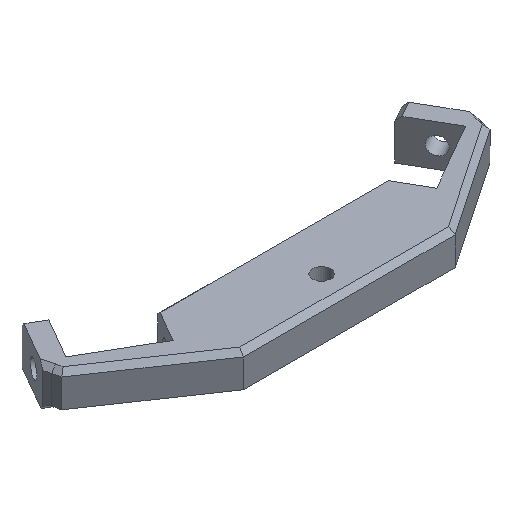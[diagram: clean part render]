
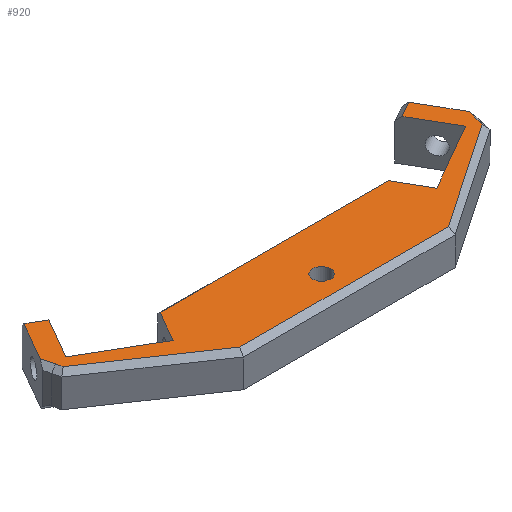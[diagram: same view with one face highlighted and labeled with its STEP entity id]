
A CAD part, isometric view. The second image highlights one B-rep face of the part: STEP entity #920.
In plain terms, the highlighted planar face has unit normal (0, 0, 1).
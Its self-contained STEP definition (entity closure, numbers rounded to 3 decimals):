
#56=LINE('',#1345,#170);
#61=LINE('',#1356,#175);
#64=LINE('',#1362,#178);
#67=LINE('',#1368,#181);
#71=LINE('',#1374,#185);
#73=LINE('',#1379,#187);
#77=LINE('',#1386,#191);
#81=LINE('',#1393,#195);
#89=LINE('',#1412,#203);
#92=LINE('',#1420,#206);
#93=LINE('',#1422,#207);
#94=LINE('',#1424,#208);
#95=LINE('',#1426,#209);
#96=LINE('',#1428,#210);
#97=LINE('',#1430,#211);
#98=LINE('',#1432,#212);
#99=LINE('',#1434,#213);
#100=LINE('',#1435,#214);
#170=VECTOR('',#1079,10.);
#175=VECTOR('',#1086,10.);
#178=VECTOR('',#1091,10.);
#181=VECTOR('',#1096,10.);
#185=VECTOR('',#1102,10.);
#187=VECTOR('',#1106,10.);
#191=VECTOR('',#1112,10.);
#195=VECTOR('',#1118,10.);
#203=VECTOR('',#1144,10.);
#206=VECTOR('',#1151,10.);
#207=VECTOR('',#1152,10.);
#208=VECTOR('',#1153,10.);
#209=VECTOR('',#1154,10.);
#210=VECTOR('',#1155,10.);
#211=VECTOR('',#1156,10.);
#212=VECTOR('',#1157,10.);
#213=VECTOR('',#1158,10.);
#214=VECTOR('',#1159,10.);
#268=PLANE('',#980);
#299=FACE_BOUND('',#390,.T.);
#331=FACE_OUTER_BOUND('',#389,.T.);
#389=EDGE_LOOP('',(#765,#766,#767,#768,#769,#770,#771,#772,#773,#774,#775,
#776,#777,#778,#779,#780,#781,#782));
#390=EDGE_LOOP('',(#783));
#431=CIRCLE('',#981,1.75);
#474=VERTEX_POINT('',#1343);
#475=VERTEX_POINT('',#1344);
#479=VERTEX_POINT('',#1353);
#480=VERTEX_POINT('',#1355);
#482=VERTEX_POINT('',#1361);
#484=VERTEX_POINT('',#1367);
#487=VERTEX_POINT('',#1377);
#489=VERTEX_POINT('',#1384);
#491=VERTEX_POINT('',#1391);
#493=VERTEX_POINT('',#1411);
#496=VERTEX_POINT('',#1419);
#497=VERTEX_POINT('',#1421);
#498=VERTEX_POINT('',#1423);
#499=VERTEX_POINT('',#1425);
#500=VERTEX_POINT('',#1427);
#501=VERTEX_POINT('',#1429);
#502=VERTEX_POINT('',#1431);
#503=VERTEX_POINT('',#1433);
#504=VERTEX_POINT('',#1436);
#562=EDGE_CURVE('',#474,#475,#56,.T.);
#567=EDGE_CURVE('',#479,#480,#61,.T.);
#570=EDGE_CURVE('',#475,#482,#64,.T.);
#573=EDGE_CURVE('',#482,#484,#67,.T.);
#577=EDGE_CURVE('',#484,#479,#71,.T.);
#579=EDGE_CURVE('',#487,#474,#73,.T.);
#583=EDGE_CURVE('',#489,#487,#77,.T.);
#587=EDGE_CURVE('',#491,#489,#81,.T.);
#596=EDGE_CURVE('',#480,#493,#89,.T.);
#600=EDGE_CURVE('',#496,#491,#92,.T.);
#601=EDGE_CURVE('',#497,#496,#93,.T.);
#602=EDGE_CURVE('',#498,#497,#94,.T.);
#603=EDGE_CURVE('',#499,#498,#95,.T.);
#604=EDGE_CURVE('',#500,#499,#96,.T.);
#605=EDGE_CURVE('',#500,#501,#97,.T.);
#606=EDGE_CURVE('',#501,#502,#98,.T.);
#607=EDGE_CURVE('',#502,#503,#99,.T.);
#608=EDGE_CURVE('',#493,#503,#100,.T.);
#609=EDGE_CURVE('',#504,#504,#431,.T.);
#765=ORIENTED_EDGE('',*,*,#583,.F.);
#766=ORIENTED_EDGE('',*,*,#587,.F.);
#767=ORIENTED_EDGE('',*,*,#600,.F.);
#768=ORIENTED_EDGE('',*,*,#601,.F.);
#769=ORIENTED_EDGE('',*,*,#602,.F.);
#770=ORIENTED_EDGE('',*,*,#603,.F.);
#771=ORIENTED_EDGE('',*,*,#604,.F.);
#772=ORIENTED_EDGE('',*,*,#605,.T.);
#773=ORIENTED_EDGE('',*,*,#606,.T.);
#774=ORIENTED_EDGE('',*,*,#607,.T.);
#775=ORIENTED_EDGE('',*,*,#608,.F.);
#776=ORIENTED_EDGE('',*,*,#596,.F.);
#777=ORIENTED_EDGE('',*,*,#567,.F.);
#778=ORIENTED_EDGE('',*,*,#577,.F.);
#779=ORIENTED_EDGE('',*,*,#573,.F.);
#780=ORIENTED_EDGE('',*,*,#570,.F.);
#781=ORIENTED_EDGE('',*,*,#562,.F.);
#782=ORIENTED_EDGE('',*,*,#579,.F.);
#783=ORIENTED_EDGE('',*,*,#609,.T.);
#920=ADVANCED_FACE('',(#331,#299),#268,.F.);
#980=AXIS2_PLACEMENT_3D('',#1418,#1149,#1150);
#981=AXIS2_PLACEMENT_3D('',#1437,#1160,#1161);
#1079=DIRECTION('',(-0.827,-0.562,0.));
#1086=DIRECTION('',(-0.259,0.966,0.));
#1091=DIRECTION('',(-1.,0.,0.));
#1096=DIRECTION('',(-0.827,0.562,0.));
#1102=DIRECTION('',(-0.224,0.975,0.));
#1106=DIRECTION('',(-0.224,-0.975,0.));
#1112=DIRECTION('',(-0.259,-0.966,0.));
#1118=DIRECTION('',(0.5,-0.866,0.));
#1144=DIRECTION('',(0.5,0.866,0.));
#1149=DIRECTION('center_axis',(0.,0.,-1.));
#1150=DIRECTION('ref_axis',(-1.,0.,0.));
#1151=DIRECTION('',(0.866,0.5,0.));
#1152=DIRECTION('',(-0.5,0.866,0.));
#1153=DIRECTION('',(0.866,0.5,0.));
#1154=DIRECTION('',(0.5,-0.866,0.));
#1155=DIRECTION('',(1.,0.,0.));
#1156=DIRECTION('',(-0.5,-0.866,0.));
#1157=DIRECTION('',(-0.866,0.5,0.));
#1158=DIRECTION('',(0.5,0.866,0.));
#1159=DIRECTION('',(0.866,-0.5,0.));
#1160=DIRECTION('center_axis',(0.,0.,-1.));
#1161=DIRECTION('ref_axis',(-1.,0.,0.));
#1343=CARTESIAN_POINT('',(61.142,4.181,10.5));
#1344=CARTESIAN_POINT('',(40.693,-9.7,10.5));
#1345=CARTESIAN_POINT('',(43.758,-7.619,10.5));
#1353=CARTESIAN_POINT('',(-20.336,5.33,10.5));
#1355=CARTESIAN_POINT('',(-20.966,7.679,10.5));
#1356=CARTESIAN_POINT('',(-17.735,-4.379,10.5));
#1361=CARTESIAN_POINT('',(0.307,-9.7,10.5));
#1362=CARTESIAN_POINT('',(21.473,-9.7,10.5));
#1367=CARTESIAN_POINT('',(-20.06,4.125,10.5));
#1368=CARTESIAN_POINT('',(12.607,-18.049,10.5));
#1374=CARTESIAN_POINT('',(-18.161,-4.154,10.5));
#1377=CARTESIAN_POINT('',(61.386,5.243,10.5));
#1379=CARTESIAN_POINT('',(60.349,0.721,10.5));
#1384=CARTESIAN_POINT('',(62.016,7.593,10.5));
#1386=CARTESIAN_POINT('',(60.297,1.18,10.5));
#1391=CARTESIAN_POINT('',(57.723,15.028,10.5));
#1393=CARTESIAN_POINT('',(57.223,15.894,10.5));
#1411=CARTESIAN_POINT('',(-16.673,15.115,10.5));
#1412=CARTESIAN_POINT('',(-16.173,15.981,10.5));
#1418=CARTESIAN_POINT('Origin',(42.945,0.723,10.5));
#1419=CARTESIAN_POINT('',(54.692,13.278,10.5));
#1420=CARTESIAN_POINT('',(48.651,9.791,10.5));
#1421=CARTESIAN_POINT('',(59.192,5.484,10.5));
#1422=CARTESIAN_POINT('',(59.192,5.484,10.5));
#1423=CARTESIAN_POINT('',(46.028,-2.116,10.5));
#1424=CARTESIAN_POINT('',(43.863,-3.366,10.5));
#1425=CARTESIAN_POINT('',(42.605,3.812,10.5));
#1426=CARTESIAN_POINT('',(42.028,4.812,10.5));
#1427=CARTESIAN_POINT('',(-1.605,3.812,10.5));
#1428=CARTESIAN_POINT('',(42.487,3.812,10.5));
#1429=CARTESIAN_POINT('',(-5.028,-2.116,10.5));
#1430=CARTESIAN_POINT('',(-1.028,4.812,10.5));
#1431=CARTESIAN_POINT('',(-18.192,5.484,10.5));
#1432=CARTESIAN_POINT('',(-2.863,-3.366,10.5));
#1433=CARTESIAN_POINT('',(-13.642,13.365,10.5));
#1434=CARTESIAN_POINT('',(-18.192,5.484,10.5));
#1435=CARTESIAN_POINT('',(9.233,0.158,10.5));
#1436=CARTESIAN_POINT('',(20.5,-7.1,10.5));
#1437=CARTESIAN_POINT('Origin',(20.5,-5.35,10.5));
